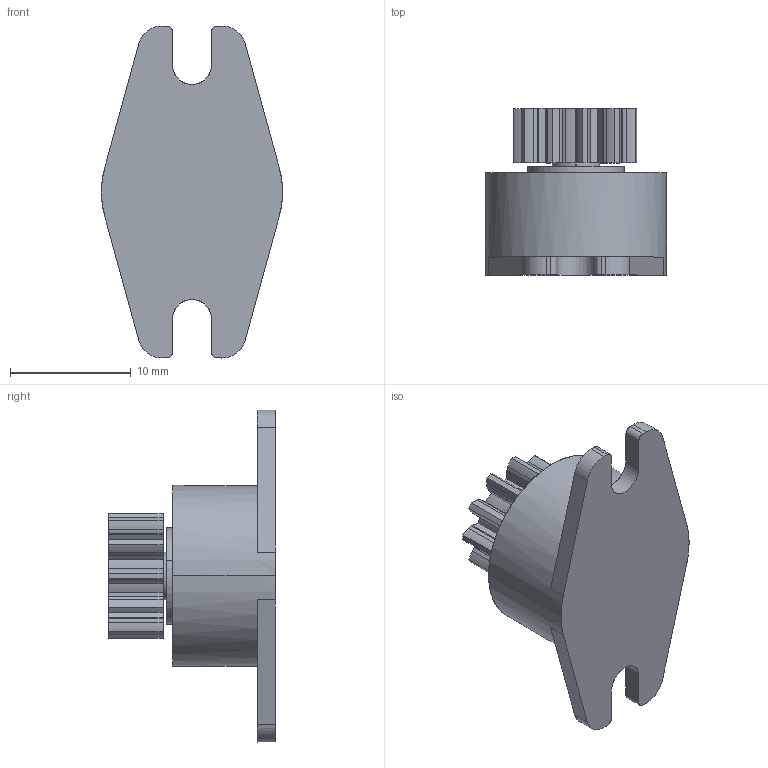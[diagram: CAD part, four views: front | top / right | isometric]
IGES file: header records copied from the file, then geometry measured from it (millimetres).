
Start section: SolidWorks IGES file using analytic representation for surfaces
Global section: file name: C:\3D-DATA\型式\R\【提出用】\IGS\FRT-C2(G1).IGS; native system: SolidWorks 2014; preprocessor: SolidWorks 2014; author: flgijutsu; date: 140516.191604; units: millimetre
Bounding box: 15 x 13.8 x 27.5 mm (x, y, z)
Surface area: 1419 mm2 (no closed solid volume)
Topology: 0 solids, 0 shells, 165 faces, 1364 edges, 1364 vertices
Faces by surface type: revolution 118, bspline 47
